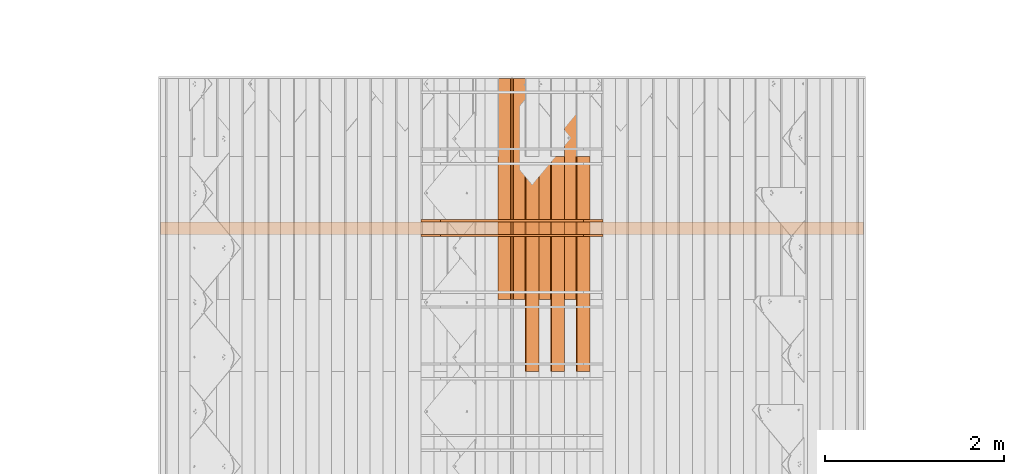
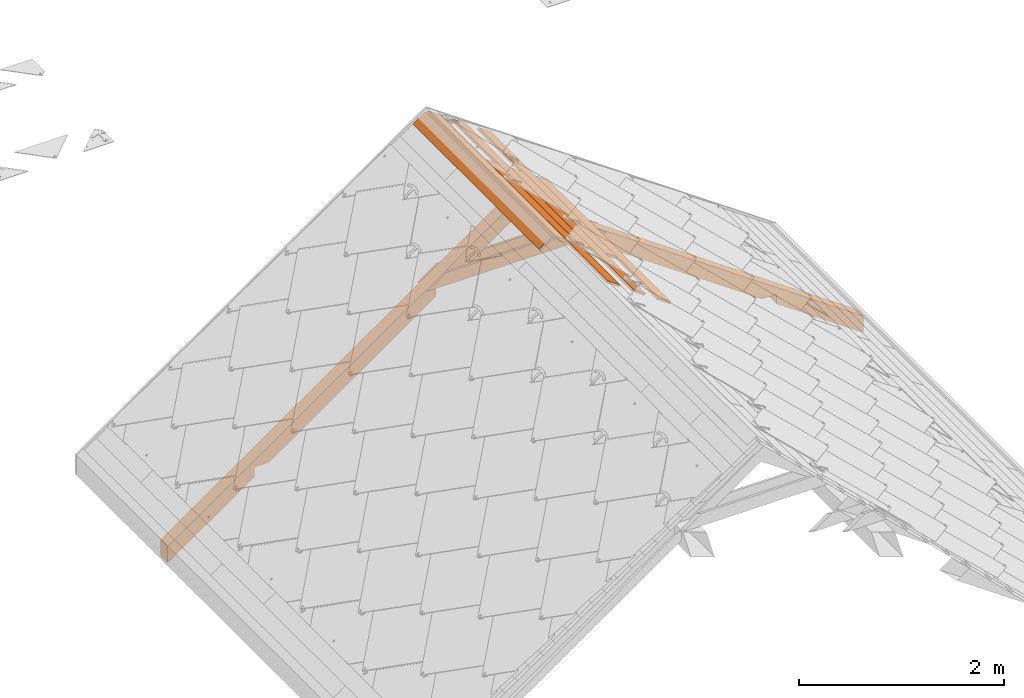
# One storey, part 65 of 133: 10 proxies, 1 element without a shape of its own.
"""IFC2X3 building model written with IfcOpenShell, lengths in millimetres."""

from ifc_helpers import new_model, entity, si_unit, converted_unit, derived_unit, direction, frame, frame_2d, origin, place, context, subcontext, project, spatial, polyline, rectangle, outline, extrude, source, transform, mapped, material, type_object, type_shapes, element, aggregate, save


model = new_model("IFC2X3")

# Units and contexts
model_context = context("Model", 3, precision=0.01, world=origin(), true_north=direction((6.12303176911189e-17, 1.0)))
body_context = subcontext(model_context, "Body", "Model", "MODEL_VIEW")
ifc_project = project(units=[si_unit("LENGTHUNIT", "METRE", prefix="MILLI"), si_unit("AREAUNIT", "SQUARE_METRE"), si_unit("VOLUMEUNIT", "CUBIC_METRE"), converted_unit("PLANEANGLEUNIT", "DEGREE", entity("IfcRatioMeasure", 0.0174532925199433), si_unit("PLANEANGLEUNIT", "RADIAN"), dimensions=[0, 0, 0, 0, 0, 0, 0]), si_unit("MASSUNIT", "GRAM", prefix="KILO"), derived_unit("MASSDENSITYUNIT", [(si_unit("MASSUNIT", "GRAM", prefix="KILO"), 1), (si_unit("LENGTHUNIT", "METRE"), -3)]), si_unit("TIMEUNIT", "SECOND"), si_unit("FREQUENCYUNIT", "HERTZ"), si_unit("THERMODYNAMICTEMPERATUREUNIT", "DEGREE_CELSIUS"), derived_unit("THERMALTRANSMITTANCEUNIT", [(si_unit("MASSUNIT", "GRAM", prefix="KILO"), 1), (si_unit("THERMODYNAMICTEMPERATUREUNIT", "KELVIN"), -1), (si_unit("TIMEUNIT", "SECOND"), -3)]), derived_unit("VOLUMETRICFLOWRATEUNIT", [(si_unit("LENGTHUNIT", "METRE"), 3), (si_unit("TIMEUNIT", "SECOND"), -1)]), si_unit("ELECTRICCURRENTUNIT", "AMPERE"), si_unit("ELECTRICVOLTAGEUNIT", "VOLT"), si_unit("POWERUNIT", "WATT"), si_unit("FORCEUNIT", "NEWTON", prefix="KILO"), si_unit("ILLUMINANCEUNIT", "LUX"), si_unit("LUMINOUSFLUXUNIT", "LUMEN"), si_unit("LUMINOUSINTENSITYUNIT", "CANDELA"), derived_unit("USERDEFINED", [(si_unit("MASSUNIT", "GRAM", prefix="KILO"), -1), (si_unit("LENGTHUNIT", "METRE"), -2), (si_unit("TIMEUNIT", "SECOND"), 3), (si_unit("LUMINOUSFLUXUNIT", "LUMEN"), 1)]), derived_unit("LINEARVELOCITYUNIT", [(si_unit("LENGTHUNIT", "METRE"), 1), (si_unit("TIMEUNIT", "SECOND"), -1)]), si_unit("PRESSUREUNIT", "PASCAL"), derived_unit("USERDEFINED", [(si_unit("LENGTHUNIT", "METRE"), -2), (si_unit("MASSUNIT", "GRAM", prefix="KILO"), 1), (si_unit("TIMEUNIT", "SECOND"), -2)])], contexts=[model_context])

# Site, building, storey
site_placement = place(None, origin())
site = spatial("IfcSite", under=ifc_project, at=site_placement, Name="Default", CompositionType="ELEMENT")
building_placement = place(site_placement, origin())
building = spatial("IfcBuilding", under=site, at=building_placement, CompositionType="ELEMENT")
storey_placement = place(building_placement, origin())
storey = spatial("IfcBuildingStorey", under=building, at=storey_placement, Name="Level 1", CompositionType="ELEMENT", Elevation=0.0)

# Assembly, proxies
assembly_placement = place(storey_placement, origin())
assembly = element("IfcElementAssembly", 1, at=assembly_placement, inside=storey, Name="Structural Framing Assembly:Roof Construction Assembly", ObjectType="Structural Framing Assembly:Roof Construction Assembly", AssemblyPlace="NOTDEFINED", PredefinedType="USERDEFINED")
ifc_material = material(Name="Wood - Generic - Wood For Showcase")
building_element_proxy_type_1 = type_object("IfcBuildingElementProxyType", Name="Structural Framing 1", PredefinedType="NOTDEFINED", material=ifc_material)
shared_shape_1 = source(origin(), body_context, "Body", "SweptSolid", [
    extrude(outline(polyline([(-929.245683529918, -1327.10037070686), (3863.25950492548, -1327.10037070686), (3975.29271103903, -1167.10037070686), (2778.93361405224, -1167.10037070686), (2713.54351952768, -1260.48710386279), (2580.17344271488, -1167.10037070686), (278.933614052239, -1167.10037070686), (213.543519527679, -1260.48710386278), (80.1734427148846, -1167.10037070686), (-817.212477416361, -1167.10037070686), (-1124.13653843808, -323.83344356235), (-1257.50661525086, -230.446710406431), (-1192.11652072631, -137.059977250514), (-1979.18689675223, 2025.39810840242), (-2112.55697356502, 2118.78484155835), (-2047.16687904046, 2212.17157471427), (-2456.34578886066, 3336.38138996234), (-2568.37899497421, 3176.38138996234), (-929.245683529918, -1327.10037070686)])), frame((1206.77890726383, 3785.55080214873, 1179.90959070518), z_axis=(0.0, 1.0, 0.0), x_axis=(0.819152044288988, 0.0, -0.573576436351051)), (0.0, 0.0, 1.0), 140.0),
])
type_shapes(building_element_proxy_type_1, [shared_shape_1])
proxy_1_placement = place(assembly_placement, frame((0.0, -1600.0, 0.0)))
proxy_1 = element("IfcBuildingElementProxy", 2, at=proxy_1_placement, type_object=building_element_proxy_type_1, material=ifc_material, Name="Structural Framing 3:Structural Framing 1", ObjectType="Structural Framing 3:Structural Framing 1", context=body_context, shape_type="MappedRepresentation", body=[
    mapped(shared_shape_1, transform((0.0, 0.0, 0.0), scale=1.0)),
])
building_element_proxy_type_2 = type_object("IfcBuildingElementProxyType", Name="Structural Framing 15", PredefinedType="NOTDEFINED", material=ifc_material)
shared_shape_2 = source(origin(), body_context, "Body", "SweptSolid", [
    extrude(rectangle(XDim=24.9999999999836, YDim=174.344679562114, at=frame_2d((3.73923114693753e-13, 6.3948846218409e-14), x_axis=(1.0, 0.0))), frame((1285.35601305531, 1455.55080214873, 2760.23940055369), z_axis=(0.0, 1.0, 0.0), x_axis=(0.573576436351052, 0.0, 0.819152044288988)), (0.0, 0.0, 1.0), 2469.99999999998),
])
type_shapes(building_element_proxy_type_2, [shared_shape_2])
proxy_2_placement = place(assembly_placement, origin())
proxy_2 = element("IfcBuildingElementProxy", 3, at=proxy_2_placement, type_object=building_element_proxy_type_2, material=ifc_material, Name="Structural Framing 155:Structural Framing 15", ObjectType="Structural Framing 155:Structural Framing 15", context=body_context, shape_type="MappedRepresentation", body=[
    mapped(shared_shape_2, transform((0.0, 0.0, 0.0), scale=1.0)),
])
building_element_proxy_type_3 = type_object("IfcBuildingElementProxyType", Name="Structural Framing 15", PredefinedType="NOTDEFINED", material=ifc_material)
shared_shape_3 = source(origin(), body_context, "Body", "SweptSolid", [
    extrude(rectangle(XDim=24.9999999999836, YDim=174.344679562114, at=frame_2d((2.97539770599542e-13, -4.2632564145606e-14), x_axis=(1.0, 0.0))), frame((1285.35601305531, 1525.55080214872, 2760.23940055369), z_axis=(0.0, 1.0, 0.0), x_axis=(0.573576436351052, 0.0, 0.819152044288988)), (0.0, 0.0, 1.0), 2399.99999999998),
])
type_shapes(building_element_proxy_type_3, [shared_shape_3])
proxy_3_placement = place(assembly_placement, frame((142.814800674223, -870.0, -100.0)))
proxy_3 = element("IfcBuildingElementProxy", 4, at=proxy_3_placement, type_object=building_element_proxy_type_3, material=ifc_material, Name="Structural Framing 160:Structural Framing 15", ObjectType="Structural Framing 160:Structural Framing 15", context=body_context, shape_type="MappedRepresentation", body=[
    mapped(shared_shape_3, transform((0.0, 0.0, 0.0), scale=1.0)),
])
building_element_proxy_type_4 = type_object("IfcBuildingElementProxyType", Name="Structural Framing 15", PredefinedType="NOTDEFINED", material=ifc_material)
shared_shape_4 = source(origin(), body_context, "Body", "SweptSolid", [
    extrude(rectangle(XDim=24.9999999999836, YDim=174.344679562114, at=frame_2d((3.73923114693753e-13, 6.3948846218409e-14), x_axis=(1.0, 0.0))), frame((1285.35601305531, 1455.55080214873, 2760.23940055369), z_axis=(0.0, 1.0, 0.0), x_axis=(0.573576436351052, 0.0, 0.819152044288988)), (0.0, 0.0, 1.0), 2469.99999999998),
])
type_shapes(building_element_proxy_type_4, [shared_shape_4])
proxy_4_placement = place(assembly_placement, frame((285.629601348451, 0.0, -200.0)))
proxy_4 = element("IfcBuildingElementProxy", 5, at=proxy_4_placement, type_object=building_element_proxy_type_4, material=ifc_material, Name="Structural Framing 165:Structural Framing 15", ObjectType="Structural Framing 165:Structural Framing 15", context=body_context, shape_type="MappedRepresentation", body=[
    mapped(shared_shape_4, transform((0.0, 0.0, 0.0), scale=1.0)),
])
building_element_proxy_type_5 = type_object("IfcBuildingElementProxyType", Name="Structural Framing 15", PredefinedType="NOTDEFINED", material=ifc_material)
shared_shape_5 = source(origin(), body_context, "Body", "SweptSolid", [
    extrude(rectangle(XDim=24.9999999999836, YDim=174.344679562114, at=frame_2d((2.97539770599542e-13, -4.2632564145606e-14), x_axis=(1.0, 0.0))), frame((1285.35601305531, 1525.55080214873, 2760.23940055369), z_axis=(0.0, 1.0, 0.0), x_axis=(0.573576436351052, 0.0, 0.819152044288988)), (0.0, 0.0, 1.0), 2399.99999999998),
])
type_shapes(building_element_proxy_type_5, [shared_shape_5])
proxy_5_placement = place(assembly_placement, frame((428.444402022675, -870.0, -300.0)))
proxy_5 = element("IfcBuildingElementProxy", 6, at=proxy_5_placement, type_object=building_element_proxy_type_5, material=ifc_material, Name="Structural Framing 170:Structural Framing 15", ObjectType="Structural Framing 170:Structural Framing 15", context=body_context, shape_type="MappedRepresentation", body=[
    mapped(shared_shape_5, transform((0.0, 0.0, 0.0), scale=1.0)),
])
building_element_proxy_type_6 = type_object("IfcBuildingElementProxyType", Name="Structural Framing 15", PredefinedType="NOTDEFINED", material=ifc_material)
shared_shape_6 = source(origin(), body_context, "Body", "SweptSolid", [
    extrude(rectangle(XDim=24.9999999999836, YDim=174.344679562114, at=frame_2d((3.73923114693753e-13, 6.3948846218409e-14), x_axis=(1.0, 0.0))), frame((1285.35601305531, 1455.55080214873, 2760.23940055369), z_axis=(0.0, 1.0, 0.0), x_axis=(0.573576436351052, 0.0, 0.819152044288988)), (0.0, 0.0, 1.0), 2469.99999999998),
])
type_shapes(building_element_proxy_type_6, [shared_shape_6])
proxy_6_placement = place(assembly_placement, frame((571.259202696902, 0.0, -400.0)))
proxy_6 = element("IfcBuildingElementProxy", 7, at=proxy_6_placement, type_object=building_element_proxy_type_6, material=ifc_material, Name="Structural Framing 175:Structural Framing 15", ObjectType="Structural Framing 175:Structural Framing 15", context=body_context, shape_type="MappedRepresentation", body=[
    mapped(shared_shape_6, transform((0.0, 0.0, 0.0), scale=1.0)),
])
building_element_proxy_type_7 = type_object("IfcBuildingElementProxyType", Name="Structural Framing 15", PredefinedType="NOTDEFINED", material=ifc_material)
shared_shape_7 = source(origin(), body_context, "Body", "SweptSolid", [
    extrude(rectangle(XDim=24.9999999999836, YDim=174.344679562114, at=frame_2d((2.97539770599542e-13, -4.2632564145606e-14), x_axis=(1.0, 0.0))), frame((1285.35601305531, 1525.55080214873, 2760.23940055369), z_axis=(0.0, 1.0, 0.0), x_axis=(0.573576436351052, 0.0, 0.819152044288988)), (0.0, 0.0, 1.0), 2399.99999999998),
])
type_shapes(building_element_proxy_type_7, [shared_shape_7])
proxy_7_placement = place(assembly_placement, frame((714.074003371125, -870.0, -500.0)))
proxy_7 = element("IfcBuildingElementProxy", 8, at=proxy_7_placement, type_object=building_element_proxy_type_7, material=ifc_material, Name="Structural Framing 180:Structural Framing 15", ObjectType="Structural Framing 180:Structural Framing 15", context=body_context, shape_type="MappedRepresentation", body=[
    mapped(shared_shape_7, transform((0.0, 0.0, 0.0), scale=1.0)),
])
building_element_proxy_type_8 = type_object("IfcBuildingElementProxyType", Name="Structural Framing 15", PredefinedType="NOTDEFINED", material=ifc_material)
shared_shape_8 = source(origin(), body_context, "Body", "SweptSolid", [
    extrude(rectangle(XDim=24.9999999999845, YDim=174.344679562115, at=frame_2d((-1.77635683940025e-13, -4.54747350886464e-13), x_axis=(0.0, 1.0))), frame((1128.20180147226, 1455.55080214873, 2760.23940055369), z_axis=(0.0, 1.0, 0.0), x_axis=(-0.819152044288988, 0.0, -0.573576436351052)), (0.0, 0.0, 1.0), 2469.99999999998),
])
type_shapes(building_element_proxy_type_8, [shared_shape_8])
proxy_8_placement = place(assembly_placement, origin())
proxy_8 = element("IfcBuildingElementProxy", 9, at=proxy_8_placement, type_object=building_element_proxy_type_8, material=ifc_material, Name="Structural Framing 15:Structural Framing 15", ObjectType="Structural Framing 15:Structural Framing 15", context=body_context, shape_type="MappedRepresentation", body=[
    mapped(shared_shape_8, transform((0.0, 0.0, 0.0), scale=1.0)),
])
building_element_proxy_type_9 = type_object("IfcBuildingElementProxyType", Name="Structural Framing 296", PredefinedType="NOTDEFINED", material=ifc_material)
shared_shape_9 = source(origin(), body_context, "Body", "SweptSolid", [
    extrude(outline(polyline([(-1014.04699829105, -75.0), (1014.04699829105, -75.0), (799.824797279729, 75.0), (-799.824797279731, 75.0), (-1014.04699829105, -75.0)])), frame((1206.77890726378, 3760.55080214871, 2164.95664769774), z_axis=(0.0, 1.0, 0.0), x_axis=(-1.0, 0.0, 0.0)), (0.0, 0.0, 1.0), 24.9999999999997),
])
type_shapes(building_element_proxy_type_9, [shared_shape_9])
proxy_9_placement = place(assembly_placement, frame((0.0, -1600.0, 0.0)))
proxy_9 = element("IfcBuildingElementProxy", 10, at=proxy_9_placement, type_object=building_element_proxy_type_9, material=ifc_material, Name="Structural Framing 299:Structural Framing 296", ObjectType="Structural Framing 299:Structural Framing 296", context=body_context, shape_type="MappedRepresentation", body=[
    mapped(shared_shape_9, transform((0.0, 0.0, 0.0), scale=1.0)),
])
building_element_proxy_type_10 = type_object("IfcBuildingElementProxyType", Name="Structural Framing 296", PredefinedType="NOTDEFINED", material=ifc_material)
shared_shape_10 = source(origin(), body_context, "Body", "SweptSolid", [
    extrude(outline(polyline([(-1014.04699829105, -75.0), (1014.04699829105, -75.0), (799.824797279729, 75.0), (-799.824797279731, 75.0), (-1014.04699829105, -75.0)])), frame((1206.77890726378, 2325.55080214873, 2164.95664769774), z_axis=(0.0, 1.0, 0.0), x_axis=(-1.0, 0.0, 0.0)), (0.0, 0.0, 1.0), 25.0),
])
type_shapes(building_element_proxy_type_10, [shared_shape_10])
proxy_10_placement = place(assembly_placement, origin())
proxy_10 = element("IfcBuildingElementProxy", 11, at=proxy_10_placement, type_object=building_element_proxy_type_10, material=ifc_material, Name="Structural Framing 300:Structural Framing 296", ObjectType="Structural Framing 300:Structural Framing 296", context=body_context, shape_type="MappedRepresentation", body=[
    mapped(shared_shape_10, transform((0.0, 0.0, 0.0), scale=1.0)),
])
aggregate(assembly, [proxy_1, proxy_2, proxy_3, proxy_4, proxy_5, proxy_6, proxy_7, proxy_8, proxy_9, proxy_10])

save(model, "model.ifc")
